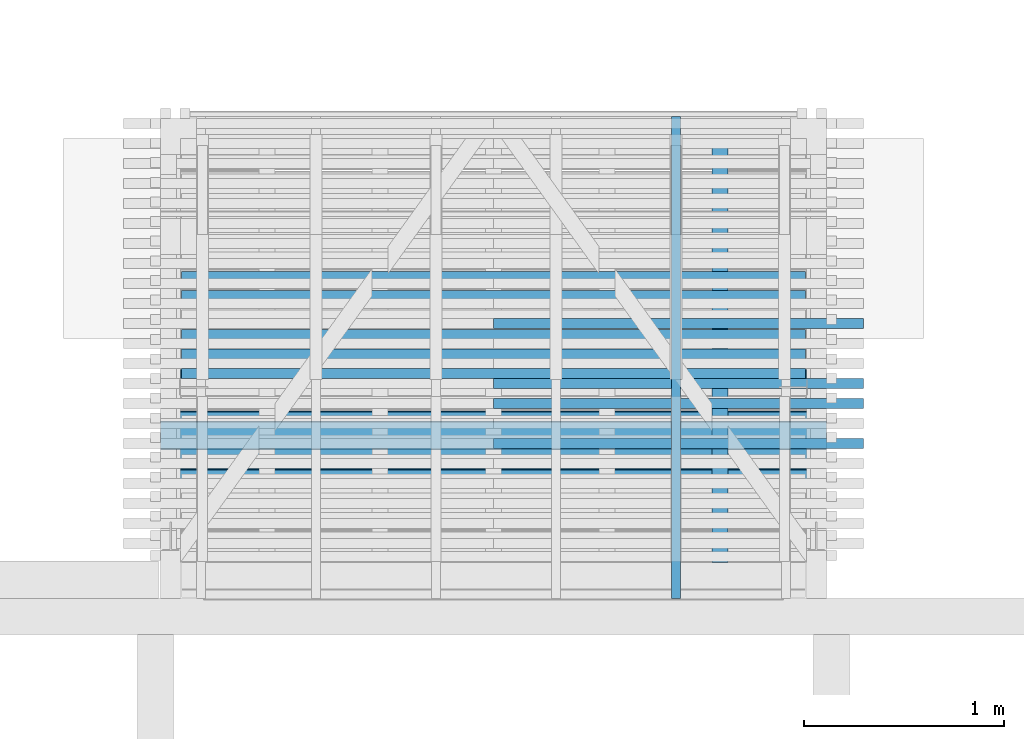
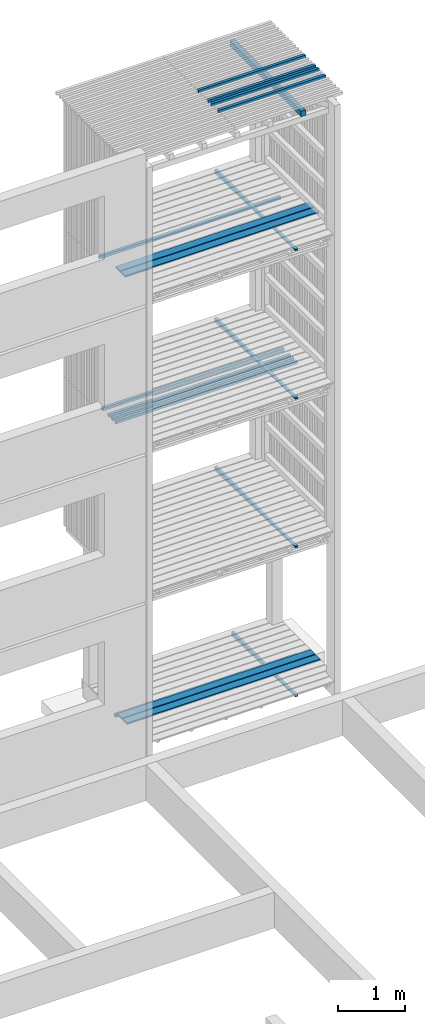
# One storey, part 123 of 182: 19 beams.
"""IFC2X3 building model written with IfcOpenShell, lengths in metres."""

from ifc_helpers import new_model, si_unit, frame, origin, place, context, project, spatial, faceted_brep, element, save


model = new_model("IFC2X3")

# Units and contexts
model_context = context("Model", 3, precision=1e-06, world=origin())
ifc_project = project(units=[si_unit("LENGTHUNIT", "METRE"), si_unit("PLANEANGLEUNIT", "RADIAN")], contexts=[model_context])

# Site, building, storey
site = spatial("IfcSite", under=ifc_project, CompositionType="ELEMENT")
building = spatial("IfcBuilding", under=site, CompositionType="ELEMENT")
storey = spatial("IfcBuildingStorey", under=building, Name="vs", CompositionType="ELEMENT", Elevation=-0.85)

# Beams
placement = place(None, origin())
beam_1_placement = place(placement, frame((55.60299999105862, 4.870077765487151, -0.015599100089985), z_axis=(0.0, 0.0, 1.0), x_axis=(0.0, 1.0, 0.0)))
element("IfcBeam", 1, at=beam_1_placement, inside=storey, Name="Calage", context=model_context, shape_type="Brep", body=[
    faceted_brep([(0.0, 0.022499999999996, 0.002600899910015), (1.91000000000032, 0.022499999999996, -0.035599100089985), (1.91000000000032, -0.022500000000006, -0.035599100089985), (0.0, -0.022500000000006, 0.002600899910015), (0.0, -0.022500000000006, 0.035599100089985), (0.0, 0.022499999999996, 0.035599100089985), (0.0, 0.022499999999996, 0.002600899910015), (0.0, -0.022500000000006, 0.002600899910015), (0.0, 0.022499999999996, 0.035599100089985), (0.0, -0.022500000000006, 0.035599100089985), (1.91000000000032, -0.022500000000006, 0.035599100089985), (1.91000000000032, 0.022499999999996, 0.035599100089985), (0.0, 0.022499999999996, 0.002600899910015), (0.0, 0.022499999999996, 0.035599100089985), (1.91000000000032, 0.022499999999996, 0.035599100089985), (1.91000000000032, 0.022499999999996, -0.035599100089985), (1.91000000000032, 0.022499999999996, -0.035599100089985), (1.91000000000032, 0.022499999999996, 0.035599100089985), (1.91000000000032, -0.022500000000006, 0.035599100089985), (1.91000000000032, -0.022500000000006, -0.035599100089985), (1.91000000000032, -0.022500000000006, -0.035599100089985), (1.91000000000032, -0.022500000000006, 0.035599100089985), (0.0, -0.022500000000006, 0.035599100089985), (0.0, -0.022500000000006, 0.002600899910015)], [[[0, 1, 2, 3]], [[4, 5, 6, 7]], [[8, 9, 10, 11]], [[12, 13, 14, 15]], [[16, 17, 18, 19]], [[20, 21, 22, 23]]]),
])
beam_2_placement = place(placement, frame((55.60299999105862, 4.870077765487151, 8.084400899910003), z_axis=(0.0, 0.0, 1.0), x_axis=(6e-15, 1.0, 0.0)))
element("IfcBeam", 2, at=beam_2_placement, inside=storey, Name="Calage", context=model_context, shape_type="Brep", body=[
    faceted_brep([(2.410000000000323, -0.022499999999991, -0.035599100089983), (0.0, -0.022500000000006, 0.012600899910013), (0.0, 0.022499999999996, 0.012600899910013), (2.410000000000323, 0.022500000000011, -0.035599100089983), (0.0, 0.022499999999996, 0.035599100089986), (0.0, 0.022499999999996, 0.012600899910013), (0.0, -0.022500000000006, 0.012600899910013), (0.0, -0.022500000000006, 0.035599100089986), (2.410000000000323, 0.022500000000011, -0.035599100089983), (0.0, 0.022499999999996, 0.012600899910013), (0.0, 0.022499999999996, 0.035599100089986), (2.410000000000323, 0.022500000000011, 0.035599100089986), (2.410000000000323, -0.022499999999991, 0.035599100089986), (0.0, -0.022500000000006, 0.035599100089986), (0.0, -0.022500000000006, 0.012600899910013), (2.410000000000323, -0.022499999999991, -0.035599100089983), (2.410000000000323, 0.022500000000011, 0.035599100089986), (0.0, 0.022499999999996, 0.035599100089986), (0.0, -0.022500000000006, 0.035599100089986), (2.410000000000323, -0.022499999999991, 0.035599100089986), (2.410000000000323, 0.022500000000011, -0.035599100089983), (2.410000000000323, 0.022500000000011, 0.035599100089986), (2.410000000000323, -0.022499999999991, 0.035599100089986), (2.410000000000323, -0.022499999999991, -0.035599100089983)], [[[0, 1, 2, 3]], [[4, 5, 6, 7]], [[8, 9, 10, 11]], [[12, 13, 14, 15]], [[16, 17, 18, 19]], [[20, 21, 22, 23]]]),
])
beam_3_placement = place(placement, frame((56.539999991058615, 6.245077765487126, 10.47999999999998), z_axis=(0.0, 0.0, 1.0), x_axis=(-1.0, 0.0, 0.0)))
element("IfcBeam", 3, at=beam_3_placement, inside=storey, Name="Bardage", context=model_context, shape_type="Brep", body=[
    faceted_brep([(-3e-15, 0.025000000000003, 0.025000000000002), (-3e-15, -0.024999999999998, 0.025000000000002), (1.849999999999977, -0.024999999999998, 0.025000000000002), (1.849999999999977, 0.025000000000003, 0.025000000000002), (1.849999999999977, -0.024999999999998, 0.025000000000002), (-3e-15, -0.024999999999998, 0.025000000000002), (-3e-15, -0.024999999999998, -0.024999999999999), (1.849999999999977, -0.024999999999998, -0.024999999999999), (-3e-15, -0.024999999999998, 0.025000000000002), (-3e-15, 0.025000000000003, 0.025000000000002), (-3e-15, 0.025000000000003, -0.024999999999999), (-3e-15, -0.024999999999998, -0.024999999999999), (-3e-15, 0.025000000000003, -0.024999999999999), (-3e-15, 0.025000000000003, 0.025000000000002), (1.849999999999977, 0.025000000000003, 0.025000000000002), (1.849999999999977, 0.025000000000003, -0.024999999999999), (1.849999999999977, -0.024999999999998, -0.024999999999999), (-3e-15, -0.024999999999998, -0.024999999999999), (-3e-15, 0.025000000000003, -0.024999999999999), (1.849999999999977, 0.025000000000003, -0.024999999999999), (1.849999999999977, -0.024999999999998, 0.025000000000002), (1.849999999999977, -0.024999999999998, -0.024999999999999), (1.849999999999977, 0.025000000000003, -0.024999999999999), (1.849999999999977, 0.025000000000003, 0.025000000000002)], [[[0, 1, 2, 3]], [[4, 5, 6, 7]], [[8, 9, 10, 11]], [[12, 13, 14, 15]], [[16, 17, 18, 19]], [[20, 21, 22, 23]]]),
])
beam_4_placement = place(placement, frame((56.539999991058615, 5.645077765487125, 10.47999999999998), z_axis=(0.0, 0.0, 1.0), x_axis=(-1.0, 0.0, 0.0)))
element("IfcBeam", 4, at=beam_4_placement, inside=storey, Name="Bardage", context=model_context, shape_type="Brep", body=[
    faceted_brep([(-3e-15, 0.024999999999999, 0.025000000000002), (-3e-15, -0.024999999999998, 0.025000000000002), (1.849999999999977, -0.024999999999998, 0.025000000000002), (1.849999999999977, 0.024999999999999, 0.025000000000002), (1.849999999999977, -0.024999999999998, 0.025000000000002), (-3e-15, -0.024999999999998, 0.025000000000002), (-3e-15, -0.024999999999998, -0.024999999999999), (1.849999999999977, -0.024999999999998, -0.024999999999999), (-3e-15, -0.024999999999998, 0.025000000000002), (-3e-15, 0.024999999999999, 0.025000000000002), (-3e-15, 0.024999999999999, -0.024999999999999), (-3e-15, -0.024999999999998, -0.024999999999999), (-3e-15, 0.024999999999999, -0.024999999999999), (-3e-15, 0.024999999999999, 0.025000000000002), (1.849999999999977, 0.024999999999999, 0.025000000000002), (1.849999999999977, 0.024999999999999, -0.024999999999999), (1.849999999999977, -0.024999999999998, -0.024999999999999), (-3e-15, -0.024999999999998, -0.024999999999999), (-3e-15, 0.024999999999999, -0.024999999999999), (1.849999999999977, 0.024999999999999, -0.024999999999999), (1.849999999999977, -0.024999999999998, 0.025000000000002), (1.849999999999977, -0.024999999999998, -0.024999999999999), (1.849999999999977, 0.024999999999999, -0.024999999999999), (1.849999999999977, 0.024999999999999, 0.025000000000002)], [[[0, 1, 2, 3]], [[4, 5, 6, 7]], [[8, 9, 10, 11]], [[12, 13, 14, 15]], [[16, 17, 18, 19]], [[20, 21, 22, 23]]]),
])
beam_5_placement = place(placement, frame((55.60299999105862, 4.870077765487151, 2.684400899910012), z_axis=(0.0, 0.0, 1.0), x_axis=(0.0, 1.0, 0.0)))
element("IfcBeam", 5, at=beam_5_placement, inside=storey, Name="Calage", context=model_context, shape_type="Brep", body=[
    faceted_brep([(2.410000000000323, -0.022500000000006, -0.035599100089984), (0.0, -0.022500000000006, 0.012600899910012), (0.0, 0.022499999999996, 0.012600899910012), (2.410000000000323, 0.022499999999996, -0.035599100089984), (0.0, 0.022499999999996, 0.035599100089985), (0.0, 0.022499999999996, 0.012600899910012), (0.0, -0.022500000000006, 0.012600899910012), (0.0, -0.022500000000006, 0.035599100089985), (2.410000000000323, 0.022499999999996, -0.035599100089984), (0.0, 0.022499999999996, 0.012600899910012), (0.0, 0.022499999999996, 0.035599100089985), (2.410000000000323, 0.022499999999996, 0.035599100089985), (2.410000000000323, -0.022500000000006, 0.035599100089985), (0.0, -0.022500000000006, 0.035599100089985), (0.0, -0.022500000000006, 0.012600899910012), (2.410000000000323, -0.022500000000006, -0.035599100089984), (2.410000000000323, 0.022499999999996, 0.035599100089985), (0.0, 0.022499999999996, 0.035599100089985), (0.0, -0.022500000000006, 0.035599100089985), (2.410000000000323, -0.022500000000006, 0.035599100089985), (2.410000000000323, 0.022499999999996, -0.035599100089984), (2.410000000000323, 0.022499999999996, 0.035599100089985), (2.410000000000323, -0.022500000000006, 0.035599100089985), (2.410000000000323, -0.022500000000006, -0.035599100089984)], [[[0, 1, 2, 3]], [[4, 5, 6, 7]], [[8, 9, 10, 11]], [[12, 13, 14, 15]], [[16, 17, 18, 19]], [[20, 21, 22, 23]]]),
])
beam_6_placement = place(placement, frame((56.539999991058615, 5.945077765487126, 10.47999999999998), z_axis=(0.0, 0.0, 1.0), x_axis=(-1.0, 0.0, 0.0)))
element("IfcBeam", 6, at=beam_6_placement, inside=storey, Name="Bardage", context=model_context, shape_type="Brep", body=[
    faceted_brep([(-3e-15, 0.025000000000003, 0.025000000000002), (-3e-15, -0.024999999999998, 0.025000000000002), (1.849999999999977, -0.024999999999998, 0.025000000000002), (1.849999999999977, 0.025000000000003, 0.025000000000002), (1.849999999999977, -0.024999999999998, 0.025000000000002), (-3e-15, -0.024999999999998, 0.025000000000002), (-3e-15, -0.024999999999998, -0.024999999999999), (1.849999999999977, -0.024999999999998, -0.024999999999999), (-3e-15, -0.024999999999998, 0.025000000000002), (-3e-15, 0.025000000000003, 0.025000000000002), (-3e-15, 0.025000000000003, -0.024999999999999), (-3e-15, -0.024999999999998, -0.024999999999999), (-3e-15, 0.025000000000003, -0.024999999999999), (-3e-15, 0.025000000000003, 0.025000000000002), (1.849999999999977, 0.025000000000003, 0.025000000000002), (1.849999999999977, 0.025000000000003, -0.024999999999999), (1.849999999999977, -0.024999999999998, -0.024999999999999), (-3e-15, -0.024999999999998, -0.024999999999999), (-3e-15, 0.025000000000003, -0.024999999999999), (1.849999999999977, 0.025000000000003, -0.024999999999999), (1.849999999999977, -0.024999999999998, 0.025000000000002), (1.849999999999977, -0.024999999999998, -0.024999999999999), (1.849999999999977, 0.025000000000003, -0.024999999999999), (1.849999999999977, 0.025000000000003, 0.025000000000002)], [[[0, 1, 2, 3]], [[4, 5, 6, 7]], [[8, 9, 10, 11]], [[12, 13, 14, 15]], [[16, 17, 18, 19]], [[20, 21, 22, 23]]]),
])
beam_7_placement = place(placement, frame((55.60299999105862, 4.870077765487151, 5.384400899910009), z_axis=(0.0, 0.0, 1.0), x_axis=(0.0, 1.0, 0.0)))
element("IfcBeam", 7, at=beam_7_placement, inside=storey, Name="Calage", context=model_context, shape_type="Brep", body=[
    faceted_brep([(2.410000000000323, -0.022500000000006, -0.035599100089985), (0.0, -0.022500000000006, 0.012600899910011), (0.0, 0.022499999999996, 0.012600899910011), (2.410000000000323, 0.022499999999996, -0.035599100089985), (0.0, 0.022499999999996, 0.035599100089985), (0.0, 0.022499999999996, 0.012600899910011), (0.0, -0.022500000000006, 0.012600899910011), (0.0, -0.022500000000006, 0.035599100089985), (2.410000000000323, 0.022499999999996, -0.035599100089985), (0.0, 0.022499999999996, 0.012600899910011), (0.0, 0.022499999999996, 0.035599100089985), (2.410000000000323, 0.022499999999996, 0.035599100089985), (2.410000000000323, -0.022500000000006, 0.035599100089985), (0.0, -0.022500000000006, 0.035599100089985), (0.0, -0.022500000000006, 0.012600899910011), (2.410000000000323, -0.022500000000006, -0.035599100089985), (2.410000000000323, 0.022499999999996, 0.035599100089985), (0.0, 0.022499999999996, 0.035599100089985), (0.0, -0.022500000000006, 0.035599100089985), (2.410000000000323, -0.022500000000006, 0.035599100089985), (2.410000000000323, 0.022499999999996, -0.035599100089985), (2.410000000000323, 0.022499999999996, 0.035599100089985), (2.410000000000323, -0.022500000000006, 0.035599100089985), (2.410000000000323, -0.022500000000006, -0.035599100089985)], [[[0, 1, 2, 3]], [[4, 5, 6, 7]], [[8, 9, 10, 11]], [[12, 13, 14, 15]], [[16, 17, 18, 19]], [[20, 21, 22, 23]]]),
])
beam_8_placement = place(placement, frame((55.82333332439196, 5.050077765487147, 10.404999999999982), z_axis=(0.0, 0.0, 1.0), x_axis=(0.0, 1.0, 0.0)))
element("IfcBeam", 8, at=beam_8_placement, inside=storey, Name="Support bardage", context=model_context, shape_type="Brep", body=[
    faceted_brep([(2.120000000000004, -0.040000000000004, 0.050000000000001), (2.120000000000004, 0.039999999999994, 0.050000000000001), (3e-15, 0.039999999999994, 0.050000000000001), (3e-15, -0.040000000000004, 0.050000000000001), (3e-15, 0.039999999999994, 0.050000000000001), (2.120000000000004, 0.039999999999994, 0.050000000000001), (2.120000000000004, 0.039999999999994, -0.050000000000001), (3e-15, 0.039999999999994, -0.050000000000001), (2.120000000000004, 0.039999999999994, 0.050000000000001), (2.120000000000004, -0.040000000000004, 0.050000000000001), (2.120000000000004, -0.040000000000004, -0.050000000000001), (2.120000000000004, 0.039999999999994, -0.050000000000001), (2.120000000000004, -0.040000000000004, -0.050000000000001), (2.120000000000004, -0.040000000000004, 0.050000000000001), (3e-15, -0.040000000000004, 0.050000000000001), (3e-15, -0.040000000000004, -0.050000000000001), (3e-15, 0.039999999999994, -0.050000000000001), (2.120000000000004, 0.039999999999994, -0.050000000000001), (2.120000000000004, -0.040000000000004, -0.050000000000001), (3e-15, -0.040000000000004, -0.050000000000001), (3e-15, 0.039999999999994, 0.050000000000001), (3e-15, 0.039999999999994, -0.050000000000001), (3e-15, -0.040000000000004, -0.050000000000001), (3e-15, -0.040000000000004, 0.050000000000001)], [[[0, 1, 2, 3]], [[4, 5, 6, 7]], [[8, 9, 10, 11]], [[12, 13, 14, 15]], [[16, 17, 18, 19]], [[20, 21, 22, 23]]]),
])
beam_9_placement = place(placement, frame((56.539999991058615, 5.845077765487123, 10.47999999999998), z_axis=(0.0, 0.0, 1.0), x_axis=(-1.0, 2e-15, 0.0)))
element("IfcBeam", 9, at=beam_9_placement, inside=storey, Name="Bardage", context=model_context, shape_type="Brep", body=[
    faceted_brep([(-3e-15, 0.024999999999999, 0.025000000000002), (-3e-15, -0.025000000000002, 0.025000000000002), (1.849999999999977, -0.024999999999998, 0.025000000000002), (1.849999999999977, 0.025000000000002, 0.025000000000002), (1.849999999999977, -0.024999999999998, 0.025000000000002), (-3e-15, -0.025000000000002, 0.025000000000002), (-3e-15, -0.025000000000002, -0.024999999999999), (1.849999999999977, -0.024999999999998, -0.024999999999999), (-3e-15, -0.025000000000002, 0.025000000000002), (-3e-15, 0.024999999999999, 0.025000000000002), (-3e-15, 0.024999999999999, -0.024999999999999), (-3e-15, -0.025000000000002, -0.024999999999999), (-3e-15, 0.024999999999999, -0.024999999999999), (-3e-15, 0.024999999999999, 0.025000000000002), (1.849999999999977, 0.025000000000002, 0.025000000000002), (1.849999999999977, 0.025000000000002, -0.024999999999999), (1.849999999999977, -0.024999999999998, -0.024999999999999), (-3e-15, -0.025000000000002, -0.024999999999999), (-3e-15, 0.024999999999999, -0.024999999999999), (1.849999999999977, 0.025000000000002, -0.024999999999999), (1.849999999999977, -0.024999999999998, 0.025000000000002), (1.849999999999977, -0.024999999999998, -0.024999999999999), (1.849999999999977, 0.025000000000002, -0.024999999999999), (1.849999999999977, 0.025000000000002, 0.025000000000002)], [[[0, 1, 2, 3]], [[4, 5, 6, 7]], [[8, 9, 10, 11]], [[12, 13, 14, 15]], [[16, 17, 18, 19]], [[20, 21, 22, 23]]]),
])
beam_10_placement = place(placement, frame((56.24999999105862, 6.189244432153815, 5.167399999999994), z_axis=(0.0, 0.0, 1.0), x_axis=(-1.0, 0.0, 0.0)))
element("IfcBeam", 10, at=beam_10_placement, inside=storey, Name="Bardage", context=model_context, shape_type="Brep", body=[
    faceted_brep([(3.120000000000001, 0.025000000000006, -0.024999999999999), (3.120000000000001, 0.025000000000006, 0.025), (3.120000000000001, -0.024999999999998, 0.025), (3.120000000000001, -0.024999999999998, -0.024999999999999), (-3e-15, -0.024999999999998, -0.024999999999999), (-3e-15, -0.024999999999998, 0.025), (-3e-15, 0.025000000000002, 0.025), (-3e-15, 0.025000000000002, -0.024999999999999), (-3e-15, 0.025000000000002, -0.024999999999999), (-3e-15, 0.025000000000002, 0.025), (3.120000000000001, 0.025000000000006, 0.025), (3.120000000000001, 0.025000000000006, -0.024999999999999), (-3e-15, 0.025000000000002, 0.025), (-3e-15, -0.024999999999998, 0.025), (3.120000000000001, -0.024999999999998, 0.025), (3.120000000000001, 0.025000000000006, 0.025), (-3e-15, -0.024999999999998, 0.025), (-3e-15, -0.024999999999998, -0.024999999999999), (3.120000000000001, -0.024999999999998, -0.024999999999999), (3.120000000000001, -0.024999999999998, 0.025), (-3e-15, -0.024999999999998, -0.024999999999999), (-3e-15, 0.025000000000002, -0.024999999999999), (3.120000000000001, 0.025000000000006, -0.024999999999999), (3.120000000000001, -0.024999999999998, -0.024999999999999)], [[[0, 1, 2, 3]], [[4, 5, 6, 7]], [[8, 9, 10, 11]], [[12, 13, 14, 15]], [[16, 17, 18, 19]], [[20, 21, 22, 23]]]),
])
beam_11_placement = place(placement, frame((56.24999999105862, 5.995077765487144, 5.167399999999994), z_axis=(0.0, 0.0, 1.0), x_axis=(-1.0, 0.0, 0.0)))
element("IfcBeam", 11, at=beam_11_placement, inside=storey, Name="Bardage", context=model_context, shape_type="Brep", body=[
    faceted_brep([(-3e-15, 0.024999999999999, -0.025), (-3e-15, -0.025000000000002, -0.025), (-3e-15, -0.025000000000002, 0.025), (-3e-15, 0.024999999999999, 0.025), (3.120000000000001, -0.025000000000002, 0.025), (3.120000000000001, -0.025000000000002, -0.025), (3.120000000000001, 0.025000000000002, -0.025), (3.120000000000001, 0.025000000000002, 0.025), (3.120000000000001, -0.025000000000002, -0.025), (3.120000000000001, -0.025000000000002, 0.025), (-3e-15, -0.025000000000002, 0.025), (-3e-15, -0.025000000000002, -0.025), (3.120000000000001, 0.025000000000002, -0.025), (3.120000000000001, -0.025000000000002, -0.025), (-3e-15, -0.025000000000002, -0.025), (-3e-15, 0.024999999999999, -0.025), (3.120000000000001, 0.025000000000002, 0.025), (3.120000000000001, 0.025000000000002, -0.025), (-3e-15, 0.024999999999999, -0.025), (-3e-15, 0.024999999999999, 0.025), (3.120000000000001, -0.025000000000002, 0.025), (3.120000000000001, 0.025000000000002, 0.025), (-3e-15, 0.024999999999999, 0.025), (-3e-15, -0.025000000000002, 0.025)], [[[0, 1, 2, 3]], [[4, 5, 6, 7]], [[8, 9, 10, 11]], [[12, 13, 14, 15]], [[16, 17, 18, 19]], [[20, 21, 22, 23]]]),
])
beam_12_placement = place(placement, frame((56.35499999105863, 5.584577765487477, 8.13349999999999), z_axis=(0.0, 0.0, 1.0), x_axis=(-1.0, -2e-15, 0.0)))
element("IfcBeam", 12, at=beam_12_placement, inside=storey, Name="Caillebotis", context=model_context, shape_type="Brep", body=[
    faceted_brep([(3.329999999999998, -0.072500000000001, -0.013500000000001), (3.329999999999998, 0.072500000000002, -0.013500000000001), (3.329999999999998, 0.072499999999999, 0.008499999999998), (3.329999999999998, 0.0675, 0.013499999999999), (3.329999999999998, -0.067500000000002, 0.013499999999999), (3.329999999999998, -0.072500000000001, 0.0085), (0.0, -0.072499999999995, 0.0085), (0.0, -0.067499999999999, 0.013499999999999), (0.0, 0.067500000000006, 0.013499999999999), (0.0, 0.072500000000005, 0.008499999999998), (0.0, 0.072500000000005, -0.013500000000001), (0.0, -0.072499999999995, -0.013500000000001), (3.329999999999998, 0.072499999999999, 0.008499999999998), (3.329999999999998, 0.072500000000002, -0.013500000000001), (0.0, 0.072500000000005, -0.013500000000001), (0.0, 0.072500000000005, 0.008499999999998), (3.329999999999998, 0.0675, 0.013499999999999), (3.329999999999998, 0.072499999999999, 0.008499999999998), (0.0, 0.072500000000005, 0.008499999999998), (0.0, 0.067500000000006, 0.013499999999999), (3.329999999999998, -0.067500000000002, 0.013499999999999), (3.329999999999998, 0.0675, 0.013499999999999), (0.0, 0.067500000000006, 0.013499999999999), (0.0, -0.067499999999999, 0.013499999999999), (3.329999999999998, -0.072500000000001, 0.0085), (3.329999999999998, -0.067500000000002, 0.013499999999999), (0.0, -0.067499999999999, 0.013499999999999), (0.0, -0.072499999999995, 0.0085), (3.329999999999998, -0.072500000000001, -0.013500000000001), (3.329999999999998, -0.072500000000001, 0.0085), (0.0, -0.072499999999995, 0.0085), (0.0, -0.072499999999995, -0.013500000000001), (0.0, 0.072500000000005, -0.013500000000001), (3.329999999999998, 0.072500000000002, -0.013500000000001), (3.329999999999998, -0.072500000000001, -0.013500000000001), (0.0, -0.072499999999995, -0.013500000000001)], [[[0, 1, 2, 3, 4, 5]], [[6, 7, 8, 9, 10, 11]], [[12, 13, 14, 15]], [[16, 17, 18, 19]], [[20, 21, 22, 23]], [[24, 25, 26, 27]], [[28, 29, 30, 31]], [[32, 33, 34, 35]]]),
])
beam_13_placement = place(placement, frame((56.35499999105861, 5.534577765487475, 0.033500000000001), z_axis=(0.0, 0.0, 1.0), x_axis=(-1.0, -1e-15, 0.0)))
element("IfcBeam", 13, at=beam_13_placement, inside=storey, Name="Caillebotis", context=model_context, shape_type="Brep", body=[
    faceted_brep([(3.329999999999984, -0.067500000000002, 0.0135), (3.329999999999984, -0.072500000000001, 0.008500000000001), (3.329999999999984, -0.072500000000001, -0.013500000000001), (3.329999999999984, 0.072499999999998, -0.013500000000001), (3.329999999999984, 0.072499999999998, 0.0085), (3.329999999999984, 0.067499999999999, 0.0135), (0.0, 0.067499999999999, 0.0135), (0.0, 0.072500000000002, 0.0085), (0.0, 0.072500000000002, -0.013500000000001), (0.0, -0.072500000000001, -0.013500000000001), (0.0, -0.072500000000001, 0.008500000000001), (0.0, -0.067499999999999, 0.0135), (3.329999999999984, -0.072500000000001, -0.013500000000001), (3.329999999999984, -0.072500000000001, 0.008500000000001), (0.0, -0.072500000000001, 0.008500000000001), (0.0, -0.072500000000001, -0.013500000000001), (3.329999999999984, 0.072499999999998, -0.013500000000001), (3.329999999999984, -0.072500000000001, -0.013500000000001), (0.0, -0.072500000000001, -0.013500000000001), (0.0, 0.072500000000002, -0.013500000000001), (3.329999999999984, 0.072499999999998, 0.0085), (3.329999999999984, 0.072499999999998, -0.013500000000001), (0.0, 0.072500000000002, -0.013500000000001), (0.0, 0.072500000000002, 0.0085), (3.329999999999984, 0.067499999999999, 0.0135), (3.329999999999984, 0.072499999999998, 0.0085), (0.0, 0.072500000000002, 0.0085), (0.0, 0.067499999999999, 0.0135), (3.329999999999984, -0.067500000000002, 0.0135), (3.329999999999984, 0.067499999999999, 0.0135), (0.0, 0.067499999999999, 0.0135), (0.0, -0.067499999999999, 0.0135), (0.0, -0.072500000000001, 0.008500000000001), (3.329999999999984, -0.072500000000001, 0.008500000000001), (3.329999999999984, -0.067500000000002, 0.0135), (0.0, -0.067499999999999, 0.0135)], [[[0, 1, 2, 3, 4, 5]], [[6, 7, 8, 9, 10, 11]], [[12, 13, 14, 15]], [[16, 17, 18, 19]], [[20, 21, 22, 23]], [[24, 25, 26, 27]], [[28, 29, 30, 31]], [[32, 33, 34, 35]]]),
])
beam_14_placement = place(placement, frame((56.24999999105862, 6.092161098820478, 5.167399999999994), z_axis=(0.0, 0.0, 1.0), x_axis=(-1.0, 0.0, 0.0)))
element("IfcBeam", 14, at=beam_14_placement, inside=storey, Name="Bardage", context=model_context, shape_type="Brep", body=[
    faceted_brep([(3.120000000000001, 0.024999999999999, -0.025), (3.120000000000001, 0.024999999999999, 0.025), (3.120000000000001, -0.024999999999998, 0.025), (3.120000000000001, -0.024999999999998, -0.025), (-3e-15, -0.025000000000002, -0.025), (-3e-15, -0.025000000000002, 0.025), (-3e-15, 0.024999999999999, 0.025), (-3e-15, 0.024999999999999, -0.025), (-3e-15, 0.024999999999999, -0.025), (-3e-15, 0.024999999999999, 0.025), (3.120000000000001, 0.024999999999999, 0.025), (3.120000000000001, 0.024999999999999, -0.025), (-3e-15, 0.024999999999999, 0.025), (-3e-15, -0.025000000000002, 0.025), (3.120000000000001, -0.024999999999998, 0.025), (3.120000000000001, 0.024999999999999, 0.025), (-3e-15, -0.025000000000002, 0.025), (-3e-15, -0.025000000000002, -0.025), (3.120000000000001, -0.024999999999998, -0.025), (3.120000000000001, -0.024999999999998, 0.025), (-3e-15, -0.025000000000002, -0.025), (-3e-15, 0.024999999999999, -0.025), (3.120000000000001, 0.024999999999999, -0.025), (3.120000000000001, -0.024999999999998, -0.025)], [[[0, 1, 2, 3]], [[4, 5, 6, 7]], [[8, 9, 10, 11]], [[12, 13, 14, 15]], [[16, 17, 18, 19]], [[20, 21, 22, 23]]]),
])
beam_15_placement = place(placement, frame((56.24999999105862, 6.38341109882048, 5.167399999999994), z_axis=(0.0, 0.0, 1.0), x_axis=(-1.0, 0.0, 0.0)))
element("IfcBeam", 15, at=beam_15_placement, inside=storey, Name="Bardage", context=model_context, shape_type="Brep", body=[
    faceted_brep([(3.120000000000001, 0.024999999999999, -0.024999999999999), (3.120000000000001, 0.024999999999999, 0.025), (3.120000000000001, -0.025000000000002, 0.025), (3.120000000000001, -0.025000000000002, -0.024999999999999), (-3e-15, -0.025000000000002, -0.024999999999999), (-3e-15, -0.025000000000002, 0.025), (-3e-15, 0.024999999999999, 0.025), (-3e-15, 0.024999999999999, -0.024999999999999), (-3e-15, 0.024999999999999, -0.024999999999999), (-3e-15, 0.024999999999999, 0.025), (3.120000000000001, 0.024999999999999, 0.025), (3.120000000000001, 0.024999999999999, -0.024999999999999), (-3e-15, 0.024999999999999, 0.025), (-3e-15, -0.025000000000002, 0.025), (3.120000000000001, -0.025000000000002, 0.025), (3.120000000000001, 0.024999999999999, 0.025), (-3e-15, -0.025000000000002, 0.025), (-3e-15, -0.025000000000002, -0.024999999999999), (3.120000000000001, -0.025000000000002, -0.024999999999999), (3.120000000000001, -0.025000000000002, 0.025), (-3e-15, -0.025000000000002, -0.024999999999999), (-3e-15, 0.024999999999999, -0.024999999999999), (3.120000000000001, 0.024999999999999, -0.024999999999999), (3.120000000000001, -0.025000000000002, -0.024999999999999)], [[[0, 1, 2, 3]], [[4, 5, 6, 7]], [[8, 9, 10, 11]], [[12, 13, 14, 15]], [[16, 17, 18, 19]], [[20, 21, 22, 23]]]),
])
beam_16_placement = place(placement, frame((56.35499999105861, 5.684577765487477, 0.033500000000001), z_axis=(0.0, 0.0, 1.0), x_axis=(-1.0, -1e-15, 0.0)))
element("IfcBeam", 16, at=beam_16_placement, inside=storey, Name="Caillebotis", context=model_context, shape_type="Brep", body=[
    faceted_brep([(3.329999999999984, -0.067499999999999, 0.0135), (3.329999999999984, -0.072500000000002, 0.008500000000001), (3.329999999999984, -0.072500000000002, -0.013500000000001), (3.329999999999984, 0.072500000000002, -0.013500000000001), (3.329999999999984, 0.072500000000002, 0.0085), (3.329999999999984, 0.067499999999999, 0.0135), (0.0, 0.067500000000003, 0.0135), (0.0, 0.072500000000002, 0.0085), (0.0, 0.072500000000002, -0.013500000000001), (0.0, -0.072499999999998, -0.013500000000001), (0.0, -0.072499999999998, 0.008500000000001), (0.0, -0.067499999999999, 0.0135), (3.329999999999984, -0.072500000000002, -0.013500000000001), (3.329999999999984, -0.072500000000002, 0.008500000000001), (0.0, -0.072499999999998, 0.008500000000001), (0.0, -0.072499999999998, -0.013500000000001), (3.329999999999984, 0.072500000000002, -0.013500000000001), (3.329999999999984, -0.072500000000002, -0.013500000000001), (0.0, -0.072499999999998, -0.013500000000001), (0.0, 0.072500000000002, -0.013500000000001), (3.329999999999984, 0.072500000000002, 0.0085), (3.329999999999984, 0.072500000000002, -0.013500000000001), (0.0, 0.072500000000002, -0.013500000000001), (0.0, 0.072500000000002, 0.0085), (3.329999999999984, 0.067499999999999, 0.0135), (3.329999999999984, 0.072500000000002, 0.0085), (0.0, 0.072500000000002, 0.0085), (0.0, 0.067500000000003, 0.0135), (3.329999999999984, -0.067499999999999, 0.0135), (3.329999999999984, 0.067499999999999, 0.0135), (0.0, 0.067500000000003, 0.0135), (0.0, -0.067499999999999, 0.0135), (0.0, -0.072499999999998, 0.008500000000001), (3.329999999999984, -0.072500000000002, 0.008500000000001), (3.329999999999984, -0.067499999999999, 0.0135), (0.0, -0.067499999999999, 0.0135)], [[[0, 1, 2, 3, 4, 5]], [[6, 7, 8, 9, 10, 11]], [[12, 13, 14, 15]], [[16, 17, 18, 19]], [[20, 21, 22, 23]], [[24, 25, 26, 27]], [[28, 29, 30, 31]], [[32, 33, 34, 35]]]),
])
beam_17_placement = place(placement, frame((56.24999999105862, 6.480494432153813, 7.86739999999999), z_axis=(0.0, 0.0, 1.0), x_axis=(-1.0, 0.0, 0.0)))
element("IfcBeam", 17, at=beam_17_placement, inside=storey, Name="Bardage", context=model_context, shape_type="Brep", body=[
    faceted_brep([(3.120000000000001, 0.024999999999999, -0.024999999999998), (3.120000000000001, 0.024999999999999, 0.025000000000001), (3.120000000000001, -0.024999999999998, 0.025000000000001), (3.120000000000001, -0.024999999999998, -0.024999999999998), (-3e-15, -0.025000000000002, -0.024999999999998), (-3e-15, -0.025000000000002, 0.025000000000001), (-3e-15, 0.024999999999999, 0.025000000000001), (-3e-15, 0.024999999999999, -0.024999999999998), (-3e-15, 0.024999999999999, -0.024999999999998), (-3e-15, 0.024999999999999, 0.025000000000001), (3.120000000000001, 0.024999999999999, 0.025000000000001), (3.120000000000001, 0.024999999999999, -0.024999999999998), (-3e-15, 0.024999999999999, 0.025000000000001), (-3e-15, -0.025000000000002, 0.025000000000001), (3.120000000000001, -0.024999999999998, 0.025000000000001), (3.120000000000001, 0.024999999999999, 0.025000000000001), (-3e-15, -0.025000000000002, 0.025000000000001), (-3e-15, -0.025000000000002, -0.024999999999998), (3.120000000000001, -0.024999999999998, -0.024999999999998), (3.120000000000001, -0.024999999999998, 0.025000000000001), (-3e-15, -0.025000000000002, -0.024999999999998), (-3e-15, 0.024999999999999, -0.024999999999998), (3.120000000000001, 0.024999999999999, -0.024999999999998), (3.120000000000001, -0.024999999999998, -0.024999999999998)], [[[0, 1, 2, 3]], [[4, 5, 6, 7]], [[8, 9, 10, 11]], [[12, 13, 14, 15]], [[16, 17, 18, 19]], [[20, 21, 22, 23]]]),
])
beam_18_placement = place(placement, frame((56.35499999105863, 5.734577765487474, 8.13349999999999), z_axis=(0.0, 0.0, 1.0), x_axis=(-1.0, 0.0, 0.0)))
element("IfcBeam", 18, at=beam_18_placement, inside=storey, Name="Caillebotis", context=model_context, shape_type="Brep", body=[
    faceted_brep([(3.329999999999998, -0.072499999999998, -0.013500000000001), (3.329999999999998, 0.072500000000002, -0.013500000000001), (3.329999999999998, 0.072500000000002, 0.008499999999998), (3.329999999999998, 0.067500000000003, 0.013499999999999), (3.329999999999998, -0.067500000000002, 0.013499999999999), (3.329999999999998, -0.072499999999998, 0.0085), (0.0, -0.072499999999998, 0.0085), (0.0, -0.067500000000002, 0.013499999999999), (0.0, 0.067500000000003, 0.013499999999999), (0.0, 0.072499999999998, 0.008499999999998), (0.0, 0.072499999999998, -0.013500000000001), (0.0, -0.072499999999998, -0.013500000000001), (3.329999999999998, 0.072500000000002, 0.008499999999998), (3.329999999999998, 0.072500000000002, -0.013500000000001), (0.0, 0.072499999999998, -0.013500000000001), (0.0, 0.072499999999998, 0.008499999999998), (3.329999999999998, 0.067500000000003, 0.013499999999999), (3.329999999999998, 0.072500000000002, 0.008499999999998), (0.0, 0.072499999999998, 0.008499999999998), (0.0, 0.067500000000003, 0.013499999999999), (3.329999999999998, -0.067500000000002, 0.013499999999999), (3.329999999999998, 0.067500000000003, 0.013499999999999), (0.0, 0.067500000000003, 0.013499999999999), (0.0, -0.067500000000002, 0.013499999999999), (3.329999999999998, -0.072499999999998, 0.0085), (3.329999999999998, -0.067500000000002, 0.013499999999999), (0.0, -0.067500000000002, 0.013499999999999), (0.0, -0.072499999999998, 0.0085), (3.329999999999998, -0.072499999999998, -0.013500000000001), (3.329999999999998, -0.072499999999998, 0.0085), (0.0, -0.072499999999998, 0.0085), (0.0, -0.072499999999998, -0.013500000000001), (0.0, 0.072499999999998, -0.013500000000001), (3.329999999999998, 0.072500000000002, -0.013500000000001), (3.329999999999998, -0.072499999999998, -0.013500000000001), (0.0, -0.072499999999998, -0.013500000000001)], [[[0, 1, 2, 3, 4, 5]], [[6, 7, 8, 9, 10, 11]], [[12, 13, 14, 15]], [[16, 17, 18, 19]], [[20, 21, 22, 23]], [[24, 25, 26, 27]], [[28, 29, 30, 31]], [[32, 33, 34, 35]]]),
])
beam_19_placement = place(placement, frame((53.124999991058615, 5.990077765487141, -0.164999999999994), z_axis=(0.0, 0.0, 1.0), x_axis=(1.0, 0.0, 0.0)))
element("IfcBeam", 19, at=beam_19_placement, inside=storey, Name="Ligneul", context=model_context, shape_type="Brep", body=[
    faceted_brep([(4e-15, -0.024999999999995, 0.025), (4e-15, -0.024999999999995, -0.025), (3.129999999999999, -0.024999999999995, -0.025), (3.129999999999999, -0.024999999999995, 0.025), (4e-15, 0.025000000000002, 0.025), (4e-15, -0.024999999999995, 0.025), (3.129999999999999, -0.024999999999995, 0.025), (3.129999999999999, 0.025000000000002, 0.025), (4e-15, -0.024999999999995, 0.025), (4e-15, 0.025000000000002, 0.025), (4e-15, 0.025000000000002, -0.025), (4e-15, -0.024999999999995, -0.025), (4e-15, 0.025000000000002, -0.025), (4e-15, 0.025000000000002, 0.025), (3.129999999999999, 0.025000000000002, 0.025), (3.129999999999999, 0.025000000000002, -0.025), (3.129999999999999, -0.024999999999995, -0.025), (4e-15, -0.024999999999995, -0.025), (4e-15, 0.025000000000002, -0.025), (3.129999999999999, 0.025000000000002, -0.025), (3.129999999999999, -0.024999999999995, 0.025), (3.129999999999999, -0.024999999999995, -0.025), (3.129999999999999, 0.025000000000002, -0.025), (3.129999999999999, 0.025000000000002, 0.025)], [[[0, 1, 2, 3]], [[4, 5, 6, 7]], [[8, 9, 10, 11]], [[12, 13, 14, 15]], [[16, 17, 18, 19]], [[20, 21, 22, 23]]]),
])

save(model, "model.ifc")
